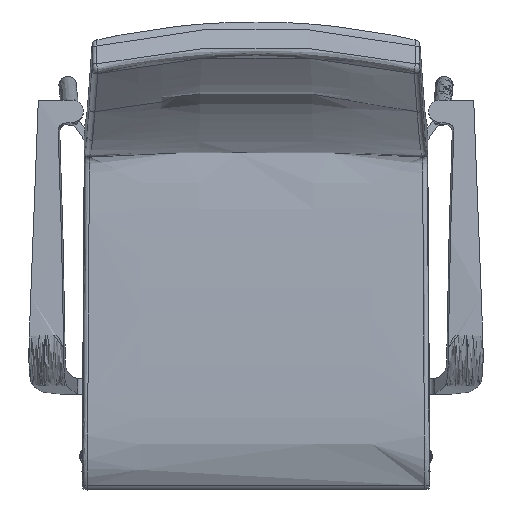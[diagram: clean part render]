
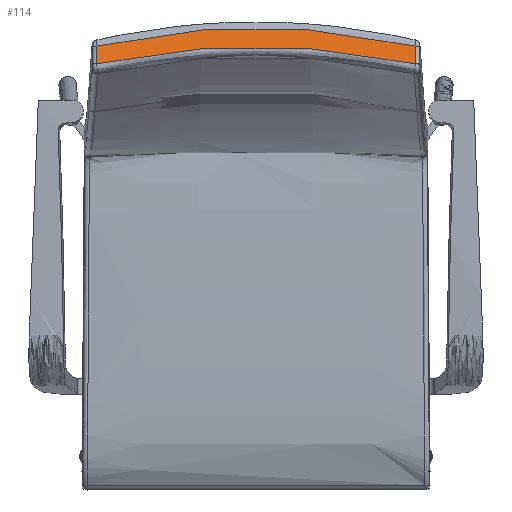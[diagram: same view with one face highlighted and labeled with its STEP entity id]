
A CAD part, top view. The second image highlights one B-rep face of the part: STEP entity #114.
In plain terms, the highlighted free-form (B-spline) face has degree [1, 3] with [2, 9] control points.
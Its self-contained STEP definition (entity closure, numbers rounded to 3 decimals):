
#114=ADVANCED_FACE('',(#205),#1184,.T.);
#205=FACE_OUTER_BOUND('',#296,.T.);
#296=EDGE_LOOP('',(#515,#516,#517,#518));
#515=ORIENTED_EDGE('',*,*,#844,.T.);
#516=ORIENTED_EDGE('',*,*,#873,.F.);
#517=ORIENTED_EDGE('',*,*,#845,.F.);
#518=ORIENTED_EDGE('',*,*,#864,.F.);
#844=EDGE_CURVE('',#1108,#1111,#1368,.T.);
#845=EDGE_CURVE('',#1109,#1110,#1369,.T.);
#864=EDGE_CURVE('',#1108,#1109,#1388,.T.);
#873=EDGE_CURVE('',#1110,#1111,#1397,.T.);
#1108=VERTEX_POINT('',#7250);
#1109=VERTEX_POINT('',#7251);
#1110=VERTEX_POINT('',#7252);
#1111=VERTEX_POINT('',#7253);
#1184=B_SPLINE_SURFACE_WITH_KNOTS('',1,3,((#3799,#3800,#3801,#3802,#3803,
#3804,#3805,#3806,#3807),(#3808,#3809,#3810,#3811,#3812,#3813,#3814,#3815,
#3816)),.UNSPECIFIED.,.F.,.F.,.F.,(2,2),(4,1,1,1,1,1,4),(0.,1.),(0.,71.501,
143.002,214.503,286.004,357.505,429.006),
 .UNSPECIFIED.);
#1368=B_SPLINE_CURVE_WITH_KNOTS('',3,(#7349,#7350,#7351,#7352,#7353),
 .UNSPECIFIED.,.F.,.F.,(4,1,4),(3.58,206.632,409.684),
 .UNSPECIFIED.);
#1369=B_SPLINE_CURVE_WITH_KNOTS('',3,(#7354,#7355,#7356,#7357,#7358),
 .UNSPECIFIED.,.F.,.F.,(4,1,4),(8.561,211.488,414.416),
 .UNSPECIFIED.);
#1388=B_SPLINE_CURVE_WITH_KNOTS('',1,(#7572,#7573),.UNSPECIFIED.,.F.,.F.,
(2,2),(-1.451,22.029),.UNSPECIFIED.);
#1397=B_SPLINE_CURVE_WITH_KNOTS('',1,(#7606,#7607),.UNSPECIFIED.,.F.,.F.,
(2,2),(1.389,24.87),.UNSPECIFIED.);
#3799=CARTESIAN_POINT('',(207.056,250.774,887.888));
#3800=CARTESIAN_POINT('',(184.503,256.026,886.12));
#3801=CARTESIAN_POINT('',(138.93,264.817,883.161));
#3802=CARTESIAN_POINT('',(69.692,272.76,880.488));
#3803=CARTESIAN_POINT('',(0.,275.414,879.595));
#3804=CARTESIAN_POINT('',(-69.692,272.76,880.488));
#3805=CARTESIAN_POINT('',(-138.931,264.816,883.161));
#3806=CARTESIAN_POINT('',(-184.503,256.026,886.12));
#3807=CARTESIAN_POINT('',(-207.056,250.774,887.888));
#3808=CARTESIAN_POINT('',(207.002,292.855,875.035));
#3809=CARTESIAN_POINT('',(184.455,298.158,873.441));
#3810=CARTESIAN_POINT('',(138.893,307.034,870.772));
#3811=CARTESIAN_POINT('',(69.673,315.055,868.36));
#3812=CARTESIAN_POINT('',(0.,317.735,867.555));
#3813=CARTESIAN_POINT('',(-69.673,315.055,868.36));
#3814=CARTESIAN_POINT('',(-138.894,307.034,870.772));
#3815=CARTESIAN_POINT('',(-184.455,298.158,873.441));
#3816=CARTESIAN_POINT('',(-207.002,292.855,875.035));
#7250=CARTESIAN_POINT('',(201.131,284.418,877.607));
#7251=CARTESIAN_POINT('',(201.136,261.955,884.442));
#7252=CARTESIAN_POINT('',(-201.136,261.955,884.442));
#7253=CARTESIAN_POINT('',(-201.131,284.418,877.607));
#7349=CARTESIAN_POINT('',(201.131,284.418,877.607));
#7350=CARTESIAN_POINT('',(135.332,299.555,872.931));
#7351=CARTESIAN_POINT('',(0.,314.899,868.2));
#7352=CARTESIAN_POINT('',(-135.332,299.555,872.931));
#7353=CARTESIAN_POINT('',(-201.131,284.418,877.607));
#7354=CARTESIAN_POINT('',(201.136,261.955,884.442));
#7355=CARTESIAN_POINT('',(135.221,276.317,879.714));
#7356=CARTESIAN_POINT('',(0.,290.854,874.903));
#7357=CARTESIAN_POINT('',(-135.221,276.317,879.714));
#7358=CARTESIAN_POINT('',(-201.136,261.955,884.442));
#7572=CARTESIAN_POINT('',(201.131,284.418,877.607));
#7573=CARTESIAN_POINT('',(201.136,261.955,884.442));
#7606=CARTESIAN_POINT('',(-201.136,261.955,884.442));
#7607=CARTESIAN_POINT('',(-201.131,284.418,877.607));
